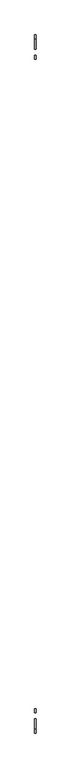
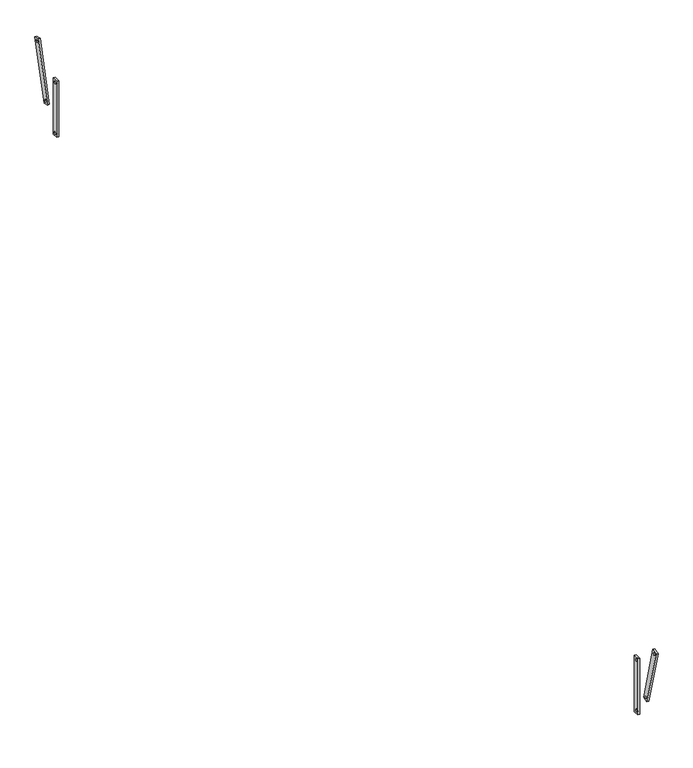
"""IFC4 building model written with IfcOpenShell, lengths in millimetres: proxy geometry, Modelos genéricos 285 : Modelos genéricos 278."""

from ifc_helpers import new_model, si_unit, point, frame, frame_2d, origin, place, context, project, spatial, polyline, circle_curve, trimmed, segment, composite_curve, outline, extrude, source, transform, mapped, element, save


def generic_models_b6f59ebe(model_context):
    return source(origin(), model_context, "Body", "SweptSolid", [
        extrude(outline(polyline([(5318.6238165, 2800.0), (5318.6238165, 3200.0), (5358.6238165, 3200.0), (5358.6238165, 2800.0), (5318.6238165, 2800.0)]), holes=[composite_curve([segment(trimmed(circle_curve(frame_2d((5338.6238165, 3180.0)), 7.5), [point((5346.1238165, 3180.0))], [point((5331.1238165, 3180.0))], True, "CARTESIAN"), True, "CONTINUOUS"), segment(trimmed(circle_curve(frame_2d((5338.6238165, 3180.0)), 7.5), [point((5331.1238165, 3180.0))], [point((5346.1238165, 3180.0))], True, "CARTESIAN"), True, "CONTINUOUS")], self_intersect=False), composite_curve([segment(trimmed(circle_curve(frame_2d((5338.6238165, 2820.0)), 7.5), [point((5346.1238165, 2820.0))], [point((5331.1238165, 2820.0))], True, "CARTESIAN"), True, "CONTINUOUS"), segment(trimmed(circle_curve(frame_2d((5338.6238165, 2820.0)), 7.5), [point((5331.1238165, 2820.0))], [point((5346.1238165, 2820.0))], True, "CARTESIAN"), True, "CONTINUOUS")], self_intersect=False)]), frame((-1739.2527533, 0.0, 0.0), z_axis=(1.0, 0.0, 0.0), x_axis=(0.0, 1.0, 0.0)), (0.0, 0.0, 1.0), 12.7),
        extrude(outline(polyline([(5424.7907615, 2966.5419368), (5533.4947604, 3372.2307838), (5572.1317934, 3361.878022), (5463.4277945, 2956.1891749), (5424.7907615, 2966.5419368)]), holes=[composite_curve([segment(trimmed(circle_curve(frame_2d((5547.636896, 3347.7358864)), 7.5), [point((5554.8813397, 3345.7947435))], [point((5540.3924523, 3349.6770292))], True, "CARTESIAN"), True, "CONTINUOUS"), segment(trimmed(circle_curve(frame_2d((5547.636896, 3347.7358864)), 7.5), [point((5540.3924523, 3349.6770292))], [point((5554.8813397, 3345.7947435))], True, "CARTESIAN"), True, "CONTINUOUS")], self_intersect=False), composite_curve([segment(trimmed(circle_curve(frame_2d((5449.2856589, 2980.6840724)), 7.5), [point((5456.5301026, 2978.7429295))], [point((5442.0412152, 2982.6252152))], True, "CARTESIAN"), True, "CONTINUOUS"), segment(trimmed(circle_curve(frame_2d((5449.2856589, 2980.6840724)), 7.5), [point((5442.0412152, 2982.6252152))], [point((5456.5301026, 2978.7429295))], True, "CARTESIAN"), True, "CONTINUOUS")], self_intersect=False)]), frame((-1739.2527533, 0.0, 0.0), z_axis=(1.0, 0.0, 0.0), x_axis=(0.0, 1.0, 0.0)), (0.0, 0.0, 1.0), 12.7),
        extrude(outline(polyline([(-1421.3761835, 2800.0), (-1461.3761835, 2800.0), (-1461.3761835, 3200.0), (-1421.3761835, 3200.0), (-1421.3761835, 2800.0)]), holes=[composite_curve([segment(trimmed(circle_curve(frame_2d((-1441.3761835, 3180.0)), 7.5), [point((-1448.8761835, 3180.0))], [point((-1433.8761835, 3180.0))], True, "CARTESIAN"), True, "CONTINUOUS"), segment(trimmed(circle_curve(frame_2d((-1441.3761835, 3180.0)), 7.5), [point((-1433.8761835, 3180.0))], [point((-1448.8761835, 3180.0))], True, "CARTESIAN"), True, "CONTINUOUS")], self_intersect=False), composite_curve([segment(trimmed(circle_curve(frame_2d((-1441.3761835, 2820.0)), 7.5), [point((-1448.8761835, 2820.0))], [point((-1433.8761835, 2820.0))], True, "CARTESIAN"), True, "CONTINUOUS"), segment(trimmed(circle_curve(frame_2d((-1441.3761835, 2820.0)), 7.5), [point((-1433.8761835, 2820.0))], [point((-1448.8761835, 2820.0))], True, "CARTESIAN"), True, "CONTINUOUS")], self_intersect=False)]), frame((-1739.2527533, 0.0, 0.0), z_axis=(1.0, 0.0, 0.0), x_axis=(0.0, 1.0, 0.0)), (0.0, 0.0, 1.0), 12.7),
        extrude(outline(polyline([(-1527.5431285, 2966.5419368), (-1566.1801615, 2956.1891749), (-1674.8841605, 3361.878022), (-1636.2471274, 3372.2307838), (-1527.5431285, 2966.5419368)]), holes=[composite_curve([segment(trimmed(circle_curve(frame_2d((-1650.389263, 3347.7358864)), 7.5), [point((-1657.6337067, 3345.7947435))], [point((-1643.1448193, 3349.6770292))], True, "CARTESIAN"), True, "CONTINUOUS"), segment(trimmed(circle_curve(frame_2d((-1650.389263, 3347.7358864)), 7.5), [point((-1643.1448193, 3349.6770292))], [point((-1657.6337067, 3345.7947435))], True, "CARTESIAN"), True, "CONTINUOUS")], self_intersect=False), composite_curve([segment(trimmed(circle_curve(frame_2d((-1552.0380259, 2980.6840724)), 7.5), [point((-1559.2824696, 2978.7429295))], [point((-1544.7935822, 2982.6252152))], True, "CARTESIAN"), True, "CONTINUOUS"), segment(trimmed(circle_curve(frame_2d((-1552.0380259, 2980.6840724)), 7.5), [point((-1544.7935822, 2982.6252152))], [point((-1559.2824696, 2978.7429295))], True, "CARTESIAN"), True, "CONTINUOUS")], self_intersect=False)]), frame((-1739.2527533, 0.0, 0.0), z_axis=(1.0, 0.0, 0.0), x_axis=(0.0, 1.0, 0.0)), (0.0, 0.0, 1.0), 12.7),
    ])


if __name__ == "__main__":
    model = new_model("IFC4")
    model_context = context("Model", 3, world=origin())
    ifc_project = project(units=[si_unit("LENGTHUNIT", "METRE", prefix="MILLI")], contexts=[model_context])
    site = spatial("IfcSite", under=ifc_project)
    building = spatial("IfcBuilding", under=site)
    placement = place(None, origin())
    generic_models_shape = generic_models_b6f59ebe(model_context)
    element("IfcBuildingElementProxy", 1, Name="Modelos genéricos 285 : Modelos genéricos 278", ObjectType="Modelos genéricos 285 : Modelos genéricos 278", at=placement, inside=building, context=model_context, shape_type="MappedRepresentation", body=[
        mapped(generic_models_shape, transform((0.0, 0.0, 0.0), x_axis=(1.0, 0.0, 0.0), y_axis=(0.0, 1.0, 0.0), z_axis=(0.0, 0.0, 1.0))),
    ])
    save(model, "model.ifc")
